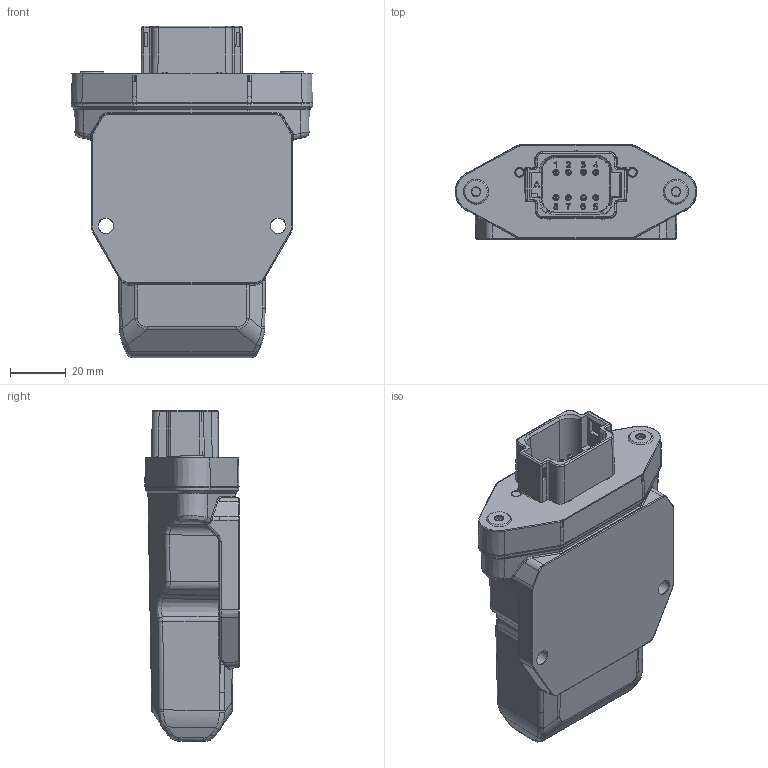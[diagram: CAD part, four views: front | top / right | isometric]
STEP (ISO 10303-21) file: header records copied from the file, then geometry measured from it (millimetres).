
FILE_DESCRIPTION (( 'STEP AP214' ), '1' );
FILE_NAME ('UNI Z1 S Defeatured.STEP', '2026-09-02T07:04:18', ( '' ), ( '' ), 'SwSTEP 2.0', 'SolidWorks 2025', '' );
FILE_SCHEMA (( 'AUTOMOTIVE_DESIGN' ));
Length unit declared in the file: millimetre
Products named in the file (1): UNI Z1 S Defeatured
Bounding box: 87.02 x 33.96 x 119.21 mm (x, y, z)
Volume: 190291.2 mm3; surface area: 28979.3 mm2
Topology: 3 solids, 17 shells, 1131 faces, 2727 edges, 1673 vertices
Faces by surface type: bspline 383, plane 365, cylinder 254, cone 68, torus 49, sphere 12
Full cylindrical faces by diameter (mm): 1.56 x8, 2.184 x8, 2.8 x2, 3 x2, 3.2 x2, 3.9 x2, 5 x2, 5.5 x2, 5.664 x4, 6.5 x2, 7 x2
Entity records: 41544 total; most frequent: CARTESIAN_POINT 18905, ORIENTED_EDGE 5208, DIRECTION 3745, EDGE_CURVE 2604, VERTEX_POINT 1639, AXIS2_PLACEMENT_3D 1334, EDGE_LOOP 1275, FACE_OUTER_BOUND 1186
